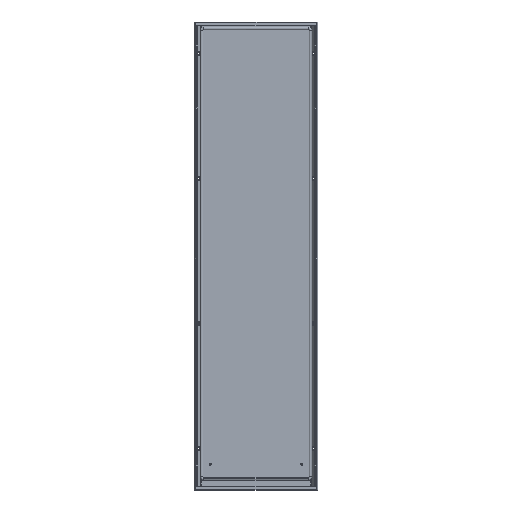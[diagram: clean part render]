
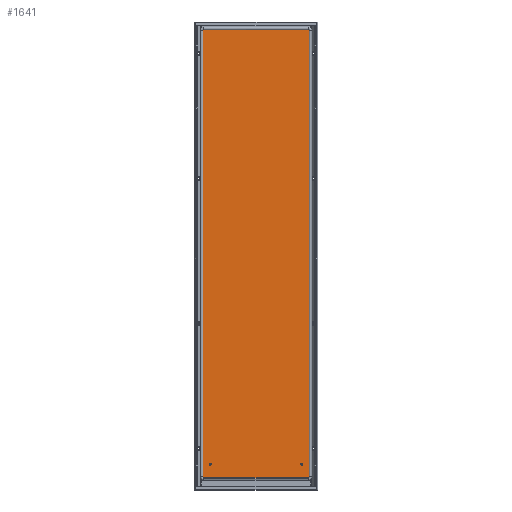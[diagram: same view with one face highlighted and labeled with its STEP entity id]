
A CAD part, top view. The second image highlights one B-rep face of the part: STEP entity #1641.
In plain terms, the highlighted planar face has unit normal (0, 0, 1).
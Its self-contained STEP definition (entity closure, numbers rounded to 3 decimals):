
#140 = EDGE_LOOP ( 'NONE', ( #1593, #3518 ) ) ;
#167 = CARTESIAN_POINT ( 'NONE',  ( 174., -791., 1. ) ) ;
#252 = LINE ( 'NONE', #4657, #4927 ) ;
#360 = DIRECTION ( 'NONE',  ( 1., 0., 0. ) ) ;
#415 = ORIENTED_EDGE ( 'NONE', *, *, #6410, .F. ) ;
#656 = DIRECTION ( 'NONE',  ( 0., 0., -1. ) ) ;
#674 = ORIENTED_EDGE ( 'NONE', *, *, #4321, .F. ) ;
#689 = CIRCLE ( 'NONE', #2529, 4.5 ) ;
#698 = CARTESIAN_POINT ( 'NONE',  ( -169.5, -791., 1. ) ) ;
#837 = CIRCLE ( 'NONE', #4417, 2.5 ) ;
#857 = VECTOR ( 'NONE', #7951, 1000. ) ;
#938 = DIRECTION ( 'NONE',  ( 0., 0., 1. ) ) ;
#939 = VERTEX_POINT ( 'NONE', #3177 ) ;
#1074 = FACE_BOUND ( 'NONE', #140, .T. ) ;
#1117 = EDGE_LOOP ( 'NONE', ( #2776, #4609 ) ) ;
#1175 = FACE_BOUND ( 'NONE', #1117, .T. ) ;
#1186 = CARTESIAN_POINT ( 'NONE',  ( -199., -842., 1. ) ) ;
#1227 = EDGE_CURVE ( 'NONE', #2258, #6000, #689, .T. ) ;
#1252 = EDGE_CURVE ( 'NONE', #2961, #7756, #3815, .T. ) ;
#1460 = DIRECTION ( 'NONE',  ( -1., 0., 0. ) ) ;
#1537 = ORIENTED_EDGE ( 'NONE', *, *, #7617, .F. ) ;
#1568 = DIRECTION ( 'NONE',  ( 0., 0., 1. ) ) ;
#1593 = ORIENTED_EDGE ( 'NONE', *, *, #4504, .F. ) ;
#1599 = CIRCLE ( 'NONE', #3488, 4.5 ) ;
#1641 = ADVANCED_FACE ( 'NONE', ( #2530, #1175, #1074 ), #7765, .T. ) ;
#1731 = CIRCLE ( 'NONE', #2785, 2.5 ) ;
#1805 = AXIS2_PLACEMENT_3D ( 'NONE', #5696, #1849, #4384 ) ;
#1849 = DIRECTION ( 'NONE',  ( 0., 0., -1. ) ) ;
#2007 = VECTOR ( 'NONE', #1460, 1000. ) ;
#2250 = ORIENTED_EDGE ( 'NONE', *, *, #3941, .F. ) ;
#2258 = VERTEX_POINT ( 'NONE', #698 ) ;
#2529 = AXIS2_PLACEMENT_3D ( 'NONE', #6044, #4714, #4797 ) ;
#2530 = FACE_OUTER_BOUND ( 'NONE', #7343, .T. ) ;
#2560 = LINE ( 'NONE', #5397, #7800 ) ;
#2563 = EDGE_CURVE ( 'NONE', #939, #3115, #1731, .T. ) ;
#2607 = DIRECTION ( 'NONE',  ( 1., 0., 0. ) ) ;
#2772 = DIRECTION ( 'NONE',  ( 1., 0., 0. ) ) ;
#2776 = ORIENTED_EDGE ( 'NONE', *, *, #5359, .F. ) ;
#2784 = CARTESIAN_POINT ( 'NONE',  ( -199., 857.5, 1. ) ) ;
#2785 = AXIS2_PLACEMENT_3D ( 'NONE', #2784, #4057, #4085 ) ;
#2787 = CIRCLE ( 'NONE', #1805, 2.5 ) ;
#2894 = DIRECTION ( 'NONE',  ( 0., 0., 1. ) ) ;
#2961 = VERTEX_POINT ( 'NONE', #3544 ) ;
#2971 = VERTEX_POINT ( 'NONE', #6814 ) ;
#3089 = ORIENTED_EDGE ( 'NONE', *, *, #5559, .T. ) ;
#3115 = VERTEX_POINT ( 'NONE', #6867 ) ;
#3177 = CARTESIAN_POINT ( 'NONE',  ( -201.5, 857.5, 1. ) ) ;
#3345 = VERTEX_POINT ( 'NONE', #4583 ) ;
#3397 = CARTESIAN_POINT ( 'NONE',  ( 199., -842., 1. ) ) ;
#3461 = DIRECTION ( 'NONE',  ( -1., 0., 0. ) ) ;
#3484 = EDGE_CURVE ( 'NONE', #6765, #4167, #837, .T. ) ;
#3488 = AXIS2_PLACEMENT_3D ( 'NONE', #167, #5798, #2607 ) ;
#3518 = ORIENTED_EDGE ( 'NONE', *, *, #1227, .F. ) ;
#3544 = CARTESIAN_POINT ( 'NONE',  ( 178.5, -791., 1. ) ) ;
#3673 = CARTESIAN_POINT ( 'NONE',  ( 201.5, 857.5, 1. ) ) ;
#3774 = CARTESIAN_POINT ( 'NONE',  ( -199., -839.5, 1. ) ) ;
#3815 = CIRCLE ( 'NONE', #6300, 4.5 ) ;
#3941 = EDGE_CURVE ( 'NONE', #2971, #4717, #6704, .T. ) ;
#3965 = CARTESIAN_POINT ( 'NONE',  ( 169.5, -791., 1. ) ) ;
#4057 = DIRECTION ( 'NONE',  ( 0., 0., -1. ) ) ;
#4085 = DIRECTION ( 'NONE',  ( -1., 0., 0. ) ) ;
#4167 = VERTEX_POINT ( 'NONE', #3673 ) ;
#4192 = EDGE_CURVE ( 'NONE', #3345, #939, #5941, .T. ) ;
#4321 = EDGE_CURVE ( 'NONE', #7631, #2971, #2787, .T. ) ;
#4384 = DIRECTION ( 'NONE',  ( -1., 0., 0. ) ) ;
#4396 = CARTESIAN_POINT ( 'NONE',  ( 199., 857.5, 1. ) ) ;
#4417 = AXIS2_PLACEMENT_3D ( 'NONE', #4396, #656, #5661 ) ;
#4504 = EDGE_CURVE ( 'NONE', #6000, #2258, #6312, .T. ) ;
#4583 = CARTESIAN_POINT ( 'NONE',  ( -201.5, -839.5, 1. ) ) ;
#4609 = ORIENTED_EDGE ( 'NONE', *, *, #1252, .F. ) ;
#4657 = CARTESIAN_POINT ( 'NONE',  ( 199., 860., 1. ) ) ;
#4714 = DIRECTION ( 'NONE',  ( 0., 0., 1. ) ) ;
#4717 = VERTEX_POINT ( 'NONE', #1186 ) ;
#4797 = DIRECTION ( 'NONE',  ( 1., 0., 0. ) ) ;
#4927 = VECTOR ( 'NONE', #3461, 1000. ) ;
#4987 = AXIS2_PLACEMENT_3D ( 'NONE', #5243, #1568, #2772 ) ;
#5025 = ORIENTED_EDGE ( 'NONE', *, *, #3484, .F. ) ;
#5033 = CARTESIAN_POINT ( 'NONE',  ( -178.5, -791., 1. ) ) ;
#5243 = CARTESIAN_POINT ( 'NONE',  ( -234., 889., 1. ) ) ;
#5278 = CARTESIAN_POINT ( 'NONE',  ( 199., 860., 1. ) ) ;
#5359 = EDGE_CURVE ( 'NONE', #7756, #2961, #1599, .T. ) ;
#5397 = CARTESIAN_POINT ( 'NONE',  ( 201.5, 857.5, 1. ) ) ;
#5477 = AXIS2_PLACEMENT_3D ( 'NONE', #5965, #938, #360 ) ;
#5559 = EDGE_CURVE ( 'NONE', #6765, #3115, #252, .T. ) ;
#5661 = DIRECTION ( 'NONE',  ( -1., 0., 0. ) ) ;
#5678 = CIRCLE ( 'NONE', #5858, 2.5 ) ;
#5696 = CARTESIAN_POINT ( 'NONE',  ( 199., -839.5, 1. ) ) ;
#5798 = DIRECTION ( 'NONE',  ( 0., 0., 1. ) ) ;
#5858 = AXIS2_PLACEMENT_3D ( 'NONE', #3774, #6843, #8028 ) ;
#5941 = LINE ( 'NONE', #8006, #857 ) ;
#5965 = CARTESIAN_POINT ( 'NONE',  ( -174., -791., 1. ) ) ;
#5988 = DIRECTION ( 'NONE',  ( 1., 0., 0. ) ) ;
#6000 = VERTEX_POINT ( 'NONE', #5033 ) ;
#6044 = CARTESIAN_POINT ( 'NONE',  ( -174., -791., 1. ) ) ;
#6300 = AXIS2_PLACEMENT_3D ( 'NONE', #6645, #2894, #5988 ) ;
#6312 = CIRCLE ( 'NONE', #5477, 4.5 ) ;
#6410 = EDGE_CURVE ( 'NONE', #4167, #7631, #2560, .T. ) ;
#6447 = ORIENTED_EDGE ( 'NONE', *, *, #4192, .F. ) ;
#6502 = ORIENTED_EDGE ( 'NONE', *, *, #2563, .F. ) ;
#6645 = CARTESIAN_POINT ( 'NONE',  ( 174., -791., 1. ) ) ;
#6704 = LINE ( 'NONE', #3397, #2007 ) ;
#6765 = VERTEX_POINT ( 'NONE', #5278 ) ;
#6814 = CARTESIAN_POINT ( 'NONE',  ( 199., -842., 1. ) ) ;
#6843 = DIRECTION ( 'NONE',  ( 0., 0., -1. ) ) ;
#6867 = CARTESIAN_POINT ( 'NONE',  ( -199., 860., 1. ) ) ;
#7343 = EDGE_LOOP ( 'NONE', ( #6502, #6447, #1537, #2250, #674, #415, #5025, #3089 ) ) ;
#7510 = CARTESIAN_POINT ( 'NONE',  ( 201.5, -839.5, 1. ) ) ;
#7617 = EDGE_CURVE ( 'NONE', #4717, #3345, #5678, .T. ) ;
#7631 = VERTEX_POINT ( 'NONE', #7510 ) ;
#7756 = VERTEX_POINT ( 'NONE', #3965 ) ;
#7762 = DIRECTION ( 'NONE',  ( 0., -1., 0. ) ) ;
#7765 = PLANE ( 'NONE',  #4987 ) ;
#7800 = VECTOR ( 'NONE', #7762, 1000. ) ;
#7951 = DIRECTION ( 'NONE',  ( 0., 1., 0. ) ) ;
#8006 = CARTESIAN_POINT ( 'NONE',  ( -201.5, -839.5, 1. ) ) ;
#8028 = DIRECTION ( 'NONE',  ( -1., 0., 0. ) ) ;
